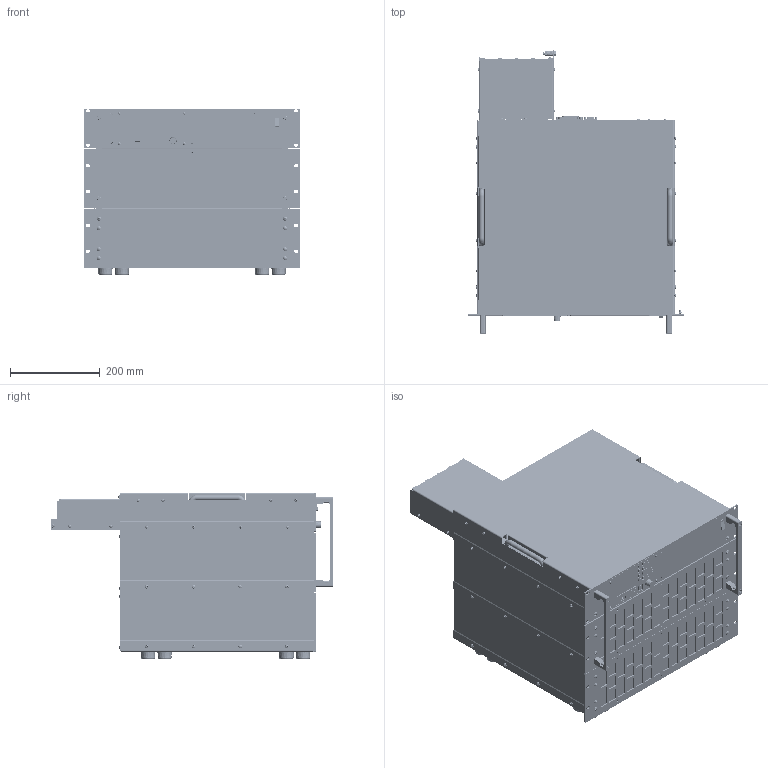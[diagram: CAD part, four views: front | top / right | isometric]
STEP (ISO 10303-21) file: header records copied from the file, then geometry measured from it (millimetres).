
FILE_DESCRIPTION(('STEP AP214'),'1');
FILE_NAME('PLI_M23_19Z_8HE_FKS25_10_SM10_BRB_3D_01.step','2019-02-22T12:03:15',(' '),(' '),'Spatial InterOp 3D',' ',' ');
FILE_SCHEMA(('AUTOMOTIVE_DESIGN { 1 0 10303 214 1 1 1 1 }'));
Length unit declared in the file: millimetre
Products named in the file (1): 1
Bounding box: 482.6 x 631.75 x 372.73 mm (x, y, z)
Volume: 20131268.4 mm3; surface area: 4375682.5 mm2
Topology: 275 solids, 1299 shells, 17145 faces, 46519 edges, 31229 vertices
Faces by surface type: plane 8676, cone 5146, cylinder 2813, sphere 262, torus 220, bspline 26, extrusion 2
Entity records: 694224 total; most frequent: CARTESIAN_POINT 100933, DIRECTION 99136, ORIENTED_EDGE 84880, EDGE_CURVE 45580, AXIS2_PLACEMENT_3D 34745, VERTEX_POINT 30086, VECTOR 29646, LINE 29644
